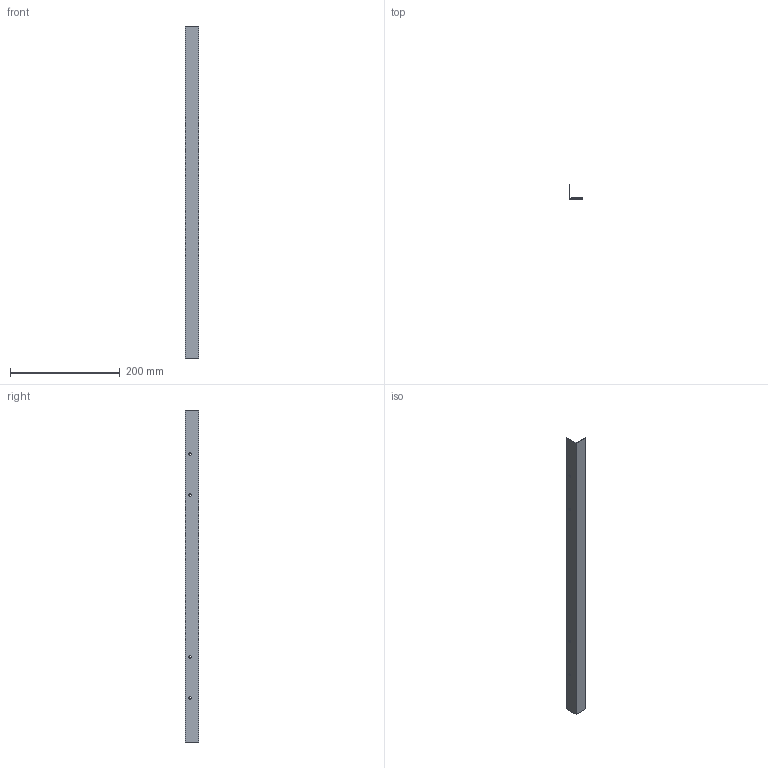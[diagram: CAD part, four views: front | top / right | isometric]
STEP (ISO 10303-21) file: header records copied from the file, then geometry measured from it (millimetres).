
FILE_DESCRIPTION(/* description */ (''),/* implementation_level */ '2;1');
FILE_NAME(/* name */ '80_1001510',/* time_stamp */ '2014-08-13T14:42:07+02:00',/* author */ (''),/* organization */ (''),/* preprocessor_version */ 'ST-DEVELOPER v9',/* originating_system */ 'UGS - NX 4.0',/* authorisation */ '');
FILE_SCHEMA (('CONFIG_CONTROL_DESIGN'));
Length unit declared in the file: millimetre
Products named in the file (1): MTro45BB8c9e
Bounding box: 25 x 25 x 605 mm (x, y, z)
Volume: 43918.3 mm3; surface area: 60603.1 mm2
Topology: 1 solids, 1 shells, 12 faces, 34 edges, 24 vertices
Faces by surface type: plane 8, cylinder 4
Full cylindrical faces by diameter (mm): 4.5 x4
Entity records: 444 total; most frequent: DIRECTION 60, CARTESIAN_POINT 59, ORIENTED_EDGE 52, EDGE_CURVE 26, EDGE_LOOP 24, AXIS2_PLACEMENT_3D 21, VERTEX_POINT 20, LINE 18
